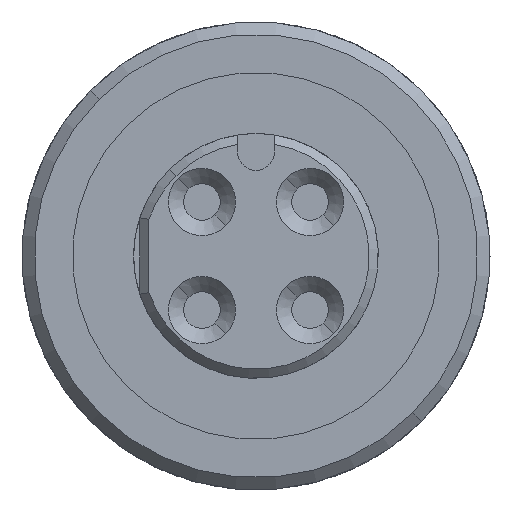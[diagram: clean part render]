
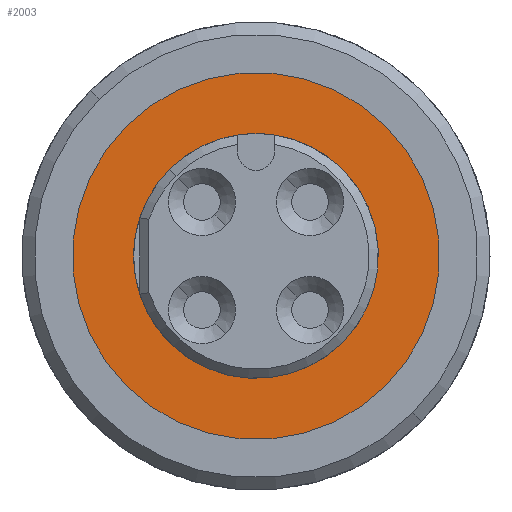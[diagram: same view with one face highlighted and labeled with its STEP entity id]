
A CAD part, left-side view. The second image highlights one B-rep face of the part: STEP entity #2003.
In plain terms, the highlighted planar face has unit normal (-1, 0, 0).
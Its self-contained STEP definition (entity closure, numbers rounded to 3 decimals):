
#270 = DIRECTION ( 'NONE',  ( -1., 0., 0. ) ) ;
#365 = DIRECTION ( 'NONE',  ( 0., -0.707, -0.707 ) ) ;
#581 = DIRECTION ( 'NONE',  ( 1., 0., 0. ) ) ;
#1015 = EDGE_LOOP ( 'NONE', ( #7300, #2706 ) ) ;
#1083 = VERTEX_POINT ( 'NONE', #2999 ) ;
#1152 = CARTESIAN_POINT ( 'NONE',  ( -172.95, 0., 0. ) ) ;
#1349 = DIRECTION ( 'NONE',  ( 1., 0., 0. ) ) ;
#1535 = AXIS2_PLACEMENT_3D ( 'NONE', #3200, #7845, #8586 ) ;
#1540 = AXIS2_PLACEMENT_3D ( 'NONE', #7197, #581, #6496 ) ;
#2003 = ADVANCED_FACE ( 'NONE', ( #6877, #6183 ), #9172, .T. ) ;
#2629 = CIRCLE ( 'NONE', #1540, 6. ) ;
#2706 = ORIENTED_EDGE ( 'NONE', *, *, #7697, .T. ) ;
#2959 = CARTESIAN_POINT ( 'NONE',  ( -172.95, -4.243, -4.243 ) ) ;
#2999 = CARTESIAN_POINT ( 'NONE',  ( -172.95, 2.828, 2.828 ) ) ;
#3200 = CARTESIAN_POINT ( 'NONE',  ( -172.95, 0., 0. ) ) ;
#3257 = DIRECTION ( 'NONE',  ( 0., 0.707, -0.707 ) ) ;
#3452 = EDGE_CURVE ( 'NONE', #4278, #1083, #7485, .T. ) ;
#4255 = EDGE_CURVE ( 'NONE', #6599, #5279, #4637, .T. ) ;
#4278 = VERTEX_POINT ( 'NONE', #7118 ) ;
#4637 = CIRCLE ( 'NONE', #1535, 6. ) ;
#4882 = EDGE_CURVE ( 'NONE', #5279, #6599, #2629, .T. ) ;
#5279 = VERTEX_POINT ( 'NONE', #2959 ) ;
#5426 = AXIS2_PLACEMENT_3D ( 'NONE', #5458, #270, #3257 ) ;
#5458 = CARTESIAN_POINT ( 'NONE',  ( -172.95, 0., 9.334 ) ) ;
#5535 = ORIENTED_EDGE ( 'NONE', *, *, #4255, .F. ) ;
#6174 = CARTESIAN_POINT ( 'NONE',  ( -172.95, 0., 0. ) ) ;
#6183 = FACE_OUTER_BOUND ( 'NONE', #8297, .T. ) ;
#6496 = DIRECTION ( 'NONE',  ( 0., 0.707, 0.707 ) ) ;
#6599 = VERTEX_POINT ( 'NONE', #9672 ) ;
#6877 = FACE_BOUND ( 'NONE', #1015, .T. ) ;
#7118 = CARTESIAN_POINT ( 'NONE',  ( -172.95, -2.828, -2.828 ) ) ;
#7197 = CARTESIAN_POINT ( 'NONE',  ( -172.95, 0., 0. ) ) ;
#7300 = ORIENTED_EDGE ( 'NONE', *, *, #3452, .T. ) ;
#7485 = CIRCLE ( 'NONE', #8410, 4. ) ;
#7697 = EDGE_CURVE ( 'NONE', #1083, #4278, #9465, .T. ) ;
#7794 = DIRECTION ( 'NONE',  ( 1., 0., 0. ) ) ;
#7845 = DIRECTION ( 'NONE',  ( 1., 0., 0. ) ) ;
#8035 = ORIENTED_EDGE ( 'NONE', *, *, #4882, .F. ) ;
#8297 = EDGE_LOOP ( 'NONE', ( #5535, #8035 ) ) ;
#8410 = AXIS2_PLACEMENT_3D ( 'NONE', #6174, #7794, #8511 ) ;
#8511 = DIRECTION ( 'NONE',  ( 0., -0.707, -0.707 ) ) ;
#8586 = DIRECTION ( 'NONE',  ( 0., 0.707, 0.707 ) ) ;
#9172 = PLANE ( 'NONE',  #5426 ) ;
#9307 = AXIS2_PLACEMENT_3D ( 'NONE', #1152, #1349, #365 ) ;
#9465 = CIRCLE ( 'NONE', #9307, 4. ) ;
#9672 = CARTESIAN_POINT ( 'NONE',  ( -172.95, 4.243, 4.243 ) ) ;
